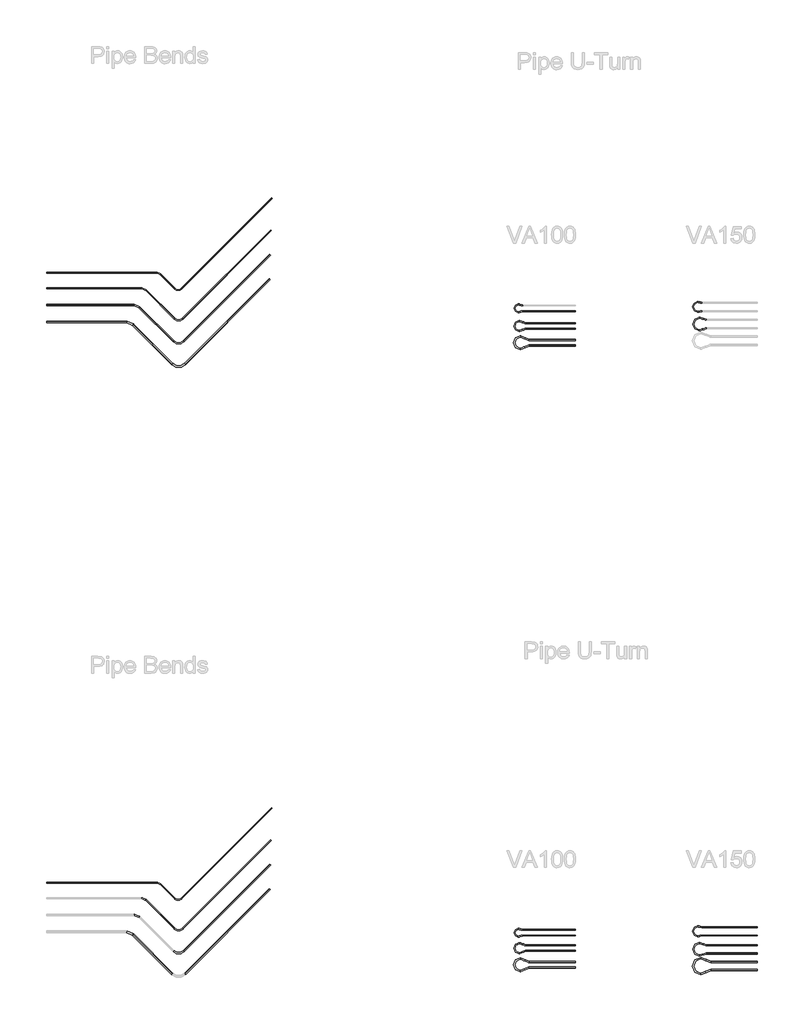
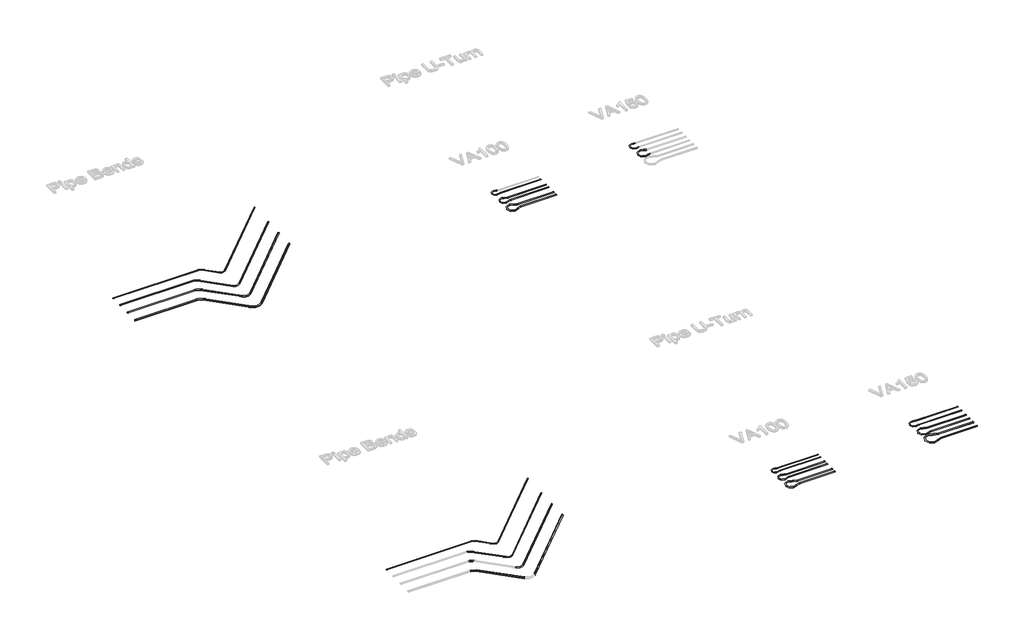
# One storey, part 5 of 26: 37 pipe segments, 26 pipe fittings.
"""IFC4 building model written with IfcOpenShell, lengths in millimetres."""

from ifc_helpers import new_model, si_unit, point, frame, frame_2d, origin, place, context, project, spatial, circle_curve, trimmed, segment, composite_curve, outline, extrude, transform, mapped, element, save
from components import pipe_bend_eb0728c1, pipe_bend_d9dde6bf, pipe_bend_f4e2ce4f, pipe_bend_7dc21ba6, pipe_bend_fe3f6248, pipe_bend_82ffcff3, pipe_bend_90816637, pipe_bend_7fa1795d, ufh_curved_u_turn_a82c40bc, ufh_curved_u_turn_aebeca01, ufh_curved_u_turn_f1e66ce9, ufh_curved_u_turn_2191235d, ufh_curved_u_turn_f083e44c, ufh_curved_u_turn_8fc7172f

model = new_model("IFC4")

# Units and contexts
model_context = context("Model", 3, world=origin())
ifc_project = project(units=[si_unit("LENGTHUNIT", "METRE", prefix="MILLI")], contexts=[model_context])

# Site, building, storey
site = spatial("IfcSite", under=ifc_project)
building = spatial("IfcBuilding", under=site)
storey = spatial("IfcBuildingStorey", under=building, Name="Superpipe UFH", Elevation=0.0)

# Pipe fittings
placement = place(None, origin())
pipe_bend_shape = pipe_bend_eb0728c1(model_context)
element("IfcPipeFitting", 1, ObjectType="Pipe Bend : Superpipe 2+ Pipe bend", at=placement, inside=storey, context=model_context, shape_type="MappedRepresentation", body=[
    mapped(pipe_bend_shape, transform((5370.3950061, 30312.5622792, 0.0), x_axis=(0.7071067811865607, -0.7071067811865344, 0.0), y_axis=(0.7071067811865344, 0.7071067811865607, 0.0), z_axis=(0.0, 0.0, 1.0))),
])
element("IfcPipeFitting", 2, ObjectType="Pipe Bend : Superpipe Pipe bend", at=placement, inside=storey, context=model_context, shape_type="MappedRepresentation", body=[
    mapped(pipe_bend_shape, transform((5370.3950061, 19373.3536193, 0.0), x_axis=(0.7071067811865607, -0.7071067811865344, 0.0), y_axis=(0.7071067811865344, 0.7071067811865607, 0.0), z_axis=(0.0, 0.0, 1.0))),
])
pipe_bend_2_shape = pipe_bend_d9dde6bf(model_context)
element("IfcPipeFitting", 3, ObjectType="Pipe Bend : Superpipe 2+ Pipe bend", at=placement, inside=storey, context=model_context, shape_type="MappedRepresentation", body=[
    mapped(pipe_bend_2_shape, transform((4637.7441458, 30079.4193827, 0.0), x_axis=(-0.7071067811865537, 0.7071067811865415, 0.0), y_axis=(-0.7071067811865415, -0.7071067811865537, 0.0), z_axis=(0.0, 0.0, 1.0))),
])
pipe_bend_3_shape = pipe_bend_f4e2ce4f(model_context)
element("IfcPipeFitting", 4, ObjectType="Pipe Bend : Superpipe 2+ Pipe bend", at=placement, inside=storey, context=model_context, shape_type="MappedRepresentation", body=[
    mapped(pipe_bend_3_shape, transform((5380.3236859, 29336.8398427, 0.0), x_axis=(0.7071067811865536, -0.7071067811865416, 0.0), y_axis=(0.7071067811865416, 0.7071067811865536, 0.0), z_axis=(0.0, 0.0, 1.0))),
])
pipe_bend_4_shape = pipe_bend_7dc21ba6(model_context)
element("IfcPipeFitting", 5, ObjectType="Pipe Bend : Superpipe 2+ Pipe bend", at=placement, inside=storey, context=model_context, shape_type="MappedRepresentation", body=[
    mapped(pipe_bend_4_shape, transform((4511.491852, 29774.6193827, 0.0), x_axis=(-0.7071067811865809, 0.7071067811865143, 0.0), y_axis=(-0.7071067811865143, -0.7071067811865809, 0.0), z_axis=(0.0, 0.0, 1.0))),
])
pipe_bend_5_shape = pipe_bend_fe3f6248(model_context)
element("IfcPipeFitting", 6, ObjectType="Pipe Bend : Superpipe 2+ Pipe bend", at=placement, inside=storey, context=model_context, shape_type="MappedRepresentation", body=[
    mapped(pipe_bend_5_shape, transform((5380.1822645, 28905.9289702, 0.0), x_axis=(0.7071067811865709, -0.7071067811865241, 0.0), y_axis=(0.7071067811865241, 0.7071067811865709, 0.0), z_axis=(0.0, 0.0, 1.0))),
])
pipe_bend_6_shape = pipe_bend_82ffcff3(model_context)
element("IfcPipeFitting", 7, ObjectType="Pipe Bend : Superpipe 2+ Pipe bend", at=placement, inside=storey, context=model_context, shape_type="MappedRepresentation", body=[
    mapped(pipe_bend_6_shape, transform((5027.1084475, 30655.8488378, 0.0), x_axis=(-0.7071067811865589, 0.7071067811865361, 0.0), y_axis=(-0.7071067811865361, -0.7071067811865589, 0.0), z_axis=(0.0, 0.0, 1.0))),
])
pipe_bend_7_shape = pipe_bend_90816637(model_context)
element("IfcPipeFitting", 8, ObjectType="Pipe Bend : Superpipe 2+ Pipe bend", at=placement, inside=storey, context=model_context, shape_type="MappedRepresentation", body=[
    mapped(pipe_bend_7_shape, transform((4762.0082146, 30379.4193827, 0.0), x_axis=(-0.7071067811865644, 0.7071067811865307, 0.0), y_axis=(-0.7071067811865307, -0.7071067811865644, 0.0), z_axis=(0.0, 0.0, 1.0))),
])
pipe_bend_8_shape = pipe_bend_7fa1795d(model_context)
element("IfcPipeFitting", 9, ObjectType="Pipe Bend : Superpipe 2+ Pipe bend", at=placement, inside=storey, context=model_context, shape_type="MappedRepresentation", body=[
    mapped(pipe_bend_8_shape, transform((5380.3236859, 29761.1039114, 0.0), x_axis=(0.7071067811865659, -0.7071067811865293, 0.0), y_axis=(0.7071067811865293, 0.7071067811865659, 0.0), z_axis=(0.0, 0.0, 1.0))),
])
element("IfcPipeFitting", 10, ObjectType="Pipe Bend : Superpipe Pipe bend", at=placement, inside=storey, context=model_context, shape_type="MappedRepresentation", body=[
    mapped(pipe_bend_2_shape, transform((4637.7441458, 19140.2107229, 0.0), x_axis=(-0.7071067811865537, 0.7071067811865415, 0.0), y_axis=(-0.7071067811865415, -0.7071067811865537, 0.0), z_axis=(0.0, 0.0, 1.0))),
])
element("IfcPipeFitting", 11, ObjectType="Pipe Bend : Superpipe Pipe bend", at=placement, inside=storey, context=model_context, shape_type="MappedRepresentation", body=[
    mapped(pipe_bend_3_shape, transform((5380.3236859, 18397.6311828, 0.0), x_axis=(0.7071067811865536, -0.7071067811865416, 0.0), y_axis=(0.7071067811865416, 0.7071067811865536, 0.0), z_axis=(0.0, 0.0, 1.0))),
])
element("IfcPipeFitting", 12, ObjectType="Pipe Bend : Superpipe Pipe bend", at=placement, inside=storey, context=model_context, shape_type="MappedRepresentation", body=[
    mapped(pipe_bend_4_shape, transform((4511.491852, 18835.4107229, 0.0), x_axis=(-0.7071067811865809, 0.7071067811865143, 0.0), y_axis=(-0.7071067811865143, -0.7071067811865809, 0.0), z_axis=(0.0, 0.0, 1.0))),
])
element("IfcPipeFitting", 13, ObjectType="Pipe Bend : Superpipe Pipe bend", at=placement, inside=storey, context=model_context, shape_type="MappedRepresentation", body=[
    mapped(pipe_bend_6_shape, transform((5027.1084475, 19716.640178, 0.0), x_axis=(-0.7071067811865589, 0.7071067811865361, 0.0), y_axis=(-0.7071067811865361, -0.7071067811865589, 0.0), z_axis=(0.0, 0.0, 1.0))),
])
element("IfcPipeFitting", 14, ObjectType="Pipe Bend : Superpipe Pipe bend", at=placement, inside=storey, context=model_context, shape_type="MappedRepresentation", body=[
    mapped(pipe_bend_7_shape, transform((4762.0082146, 19440.2107229, 0.0), x_axis=(-0.7071067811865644, 0.7071067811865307, 0.0), y_axis=(-0.7071067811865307, -0.7071067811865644, 0.0), z_axis=(0.0, 0.0, 1.0))),
])
element("IfcPipeFitting", 15, ObjectType="Pipe Bend : Superpipe Pipe bend", at=placement, inside=storey, context=model_context, shape_type="MappedRepresentation", body=[
    mapped(pipe_bend_8_shape, transform((5380.3236859, 18821.8952515, 0.0), x_axis=(0.7071067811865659, -0.7071067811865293, 0.0), y_axis=(0.7071067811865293, 0.7071067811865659, 0.0), z_axis=(0.0, 0.0, 1.0))),
])
ufh_curved_u_turn_shape = ufh_curved_u_turn_a82c40bc(model_context)
element("IfcPipeFitting", 16, ObjectType="UFH - Curved U-turn : Superpipe 2+ UFH Curved U-turn  - VA150", at=placement, inside=storey, context=model_context, shape_type="MappedRepresentation", body=[
    mapped(ufh_curved_u_turn_shape, transform((14772.2598237, 29969.743814, 0.0), x_axis=(0.0, 1.0, 0.0), y_axis=(-1.0, 0.0, 0.0), z_axis=(0.0, 0.0, 1.0))),
])
ufh_curved_u_turn_2_shape = ufh_curved_u_turn_aebeca01(model_context)
element("IfcPipeFitting", 17, ObjectType="UFH - Curved U-turn : Superpipe 2+ UFH Curved U-turn  - VA100", at=placement, inside=storey, context=model_context, shape_type="MappedRepresentation", body=[
    mapped(ufh_curved_u_turn_2_shape, transform((11607.81696, 29652.5105822, 0.0), x_axis=(0.0, 1.0, 0.0), y_axis=(-1.0, 0.0, 0.0), z_axis=(0.0, 0.0, 1.0))),
])
element("IfcPipeFitting", 18, ObjectType="UFH - Curved U-turn : Superpipe UFH Curved U-turn  - VA100", at=placement, inside=storey, context=model_context, shape_type="MappedRepresentation", body=[
    mapped(ufh_curved_u_turn_2_shape, transform((11607.81696, 18493.0164319, 0.0), x_axis=(0.0, 1.0, 0.0), y_axis=(-1.0, 0.0, 0.0), z_axis=(0.0, 0.0, 1.0))),
])
element("IfcPipeFitting", 19, ObjectType="UFH - Curved U-turn : Superpipe UFH Curved U-turn  - VA150", at=placement, inside=storey, context=model_context, shape_type="MappedRepresentation", body=[
    mapped(ufh_curved_u_turn_shape, transform((14772.2598237, 18769.743814, 0.0), x_axis=(0.0, 1.0, 0.0), y_axis=(-1.0, 0.0, 0.0), z_axis=(0.0, 0.0, 1.0))),
])
ufh_curved_u_turn_3_shape = ufh_curved_u_turn_f1e66ce9(model_context)
element("IfcPipeFitting", 20, ObjectType="UFH - Curved U-turn : Superpipe 2+ UFH Curved U-turn  - VA100", at=placement, inside=storey, context=model_context, shape_type="MappedRepresentation", body=[
    mapped(ufh_curved_u_turn_3_shape, transform((11556.1170006, 29969.743814, 0.0), x_axis=(0.0, 1.0, 0.0), y_axis=(-1.0, 0.0, 0.0), z_axis=(0.0, 0.0, 1.0))),
])
ufh_curved_u_turn_4_shape = ufh_curved_u_turn_2191235d(model_context)
element("IfcPipeFitting", 21, ObjectType="UFH - Curved U-turn : Superpipe 2+ UFH Curved U-turn  - VA150", at=placement, inside=storey, context=model_context, shape_type="MappedRepresentation", body=[
    mapped(ufh_curved_u_turn_4_shape, transform((14852.7350554, 29661.919181, 0.0), x_axis=(0.0, 1.0, 0.0), y_axis=(-1.0, 0.0, 0.0), z_axis=(0.0, 0.0, 1.0))),
])
ufh_curved_u_turn_5_shape = ufh_curved_u_turn_f083e44c(model_context)
element("IfcPipeFitting", 22, ObjectType="UFH - Curved U-turn : Superpipe 2+ UFH Curved U-turn  - VA100", at=placement, inside=storey, context=model_context, shape_type="MappedRepresentation", body=[
    mapped(ufh_curved_u_turn_5_shape, transform((11670.6980373, 29352.7649855, 0.0), x_axis=(0.0, 1.0, 0.0), y_axis=(-1.0, 0.0, 0.0), z_axis=(0.0, 0.0, 1.0))),
])
element("IfcPipeFitting", 23, ObjectType="UFH - Curved U-turn : Superpipe UFH Curved U-turn  - VA100", at=placement, inside=storey, context=model_context, shape_type="MappedRepresentation", body=[
    mapped(ufh_curved_u_turn_3_shape, transform((11556.1170006, 18769.743814, 0.0), x_axis=(0.0, 1.0, 0.0), y_axis=(-1.0, 0.0, 0.0), z_axis=(0.0, 0.0, 1.0))),
])
element("IfcPipeFitting", 24, ObjectType="UFH - Curved U-turn : Superpipe UFH Curved U-turn  - VA150", at=placement, inside=storey, context=model_context, shape_type="MappedRepresentation", body=[
    mapped(ufh_curved_u_turn_4_shape, transform((14852.7350554, 18447.0645056, 0.0), x_axis=(0.0, 1.0, 0.0), y_axis=(-1.0, 0.0, 0.0), z_axis=(0.0, 0.0, 1.0))),
])
element("IfcPipeFitting", 25, ObjectType="UFH - Curved U-turn : Superpipe UFH Curved U-turn  - VA100", at=placement, inside=storey, context=model_context, shape_type="MappedRepresentation", body=[
    mapped(ufh_curved_u_turn_5_shape, transform((11670.6980373, 18193.2708352, 0.0), x_axis=(0.0, 1.0, 0.0), y_axis=(-1.0, 0.0, 0.0), z_axis=(0.0, 0.0, 1.0))),
])
ufh_curved_u_turn_6_shape = ufh_curved_u_turn_8fc7172f(model_context)
element("IfcPipeFitting", 26, ObjectType="UFH - Curved U-turn : Superpipe UFH Curved U-turn  - VA150", at=placement, inside=storey, context=model_context, shape_type="MappedRepresentation", body=[
    mapped(ufh_curved_u_turn_6_shape, transform((14932.01092, 18147.3189089, 0.0), x_axis=(0.0, 1.0, 0.0), y_axis=(-1.0, 0.0, 0.0), z_axis=(0.0, 0.0, 1.0))),
])

# Pipe segments
element("IfcPipeSegment", 27, ObjectType="Superpipe 2+ coil", at=placement, inside=storey, context=model_context, shape_type="SweptSolid", body=[
    extrude(outline(composite_curve([segment(trimmed(circle_curve(frame_2d((30079.4193827, 0.0)), 12.5), [point((30066.9193827, 0.0))], [point((30079.4193827, 12.5))], False, "CARTESIAN"), True, "CONTINUOUS"), segment(trimmed(circle_curve(frame_2d((30079.4193827, 0.0)), 12.5), [point((30079.4193827, 12.5))], [point((30091.9193827, 0.0))], False, "CARTESIAN"), True, "CONTINUOUS"), segment(trimmed(circle_curve(frame_2d((30079.4193827, 0.0)), 12.5), [point((30091.9193827, 0.0))], [point((30079.4193827, -12.5))], False, "CARTESIAN"), True, "CONTINUOUS"), segment(trimmed(circle_curve(frame_2d((30079.4193827, 0.0)), 12.5), [point((30079.4193827, -12.5))], [point((30066.9193827, 0.0))], False, "CARTESIAN"), True, "CONTINUOUS")], self_intersect=False)), frame((3008.7508106, 0.0, 0.0), z_axis=(1.0, 0.0, 0.0), x_axis=(0.0, 1.0, 0.0)), (0.0, 0.0, 1.0), 1575.2166399),
])
element("IfcPipeSegment", 28, ObjectType="Superpipe 2+ coil", at=placement, inside=storey, context=model_context, shape_type="SweptSolid", body=[
    extrude(outline(composite_curve([segment(trimmed(circle_curve(frame_2d((0.0, -12.5)), 12.5), [point((-12.5, -12.5))], [point((0.0, 0.0))], False, "CARTESIAN"), True, "CONTINUOUS"), segment(trimmed(circle_curve(frame_2d((0.0, -12.5)), 12.5), [point((0.0, 0.0))], [point((12.5, -12.5))], False, "CARTESIAN"), True, "CONTINUOUS"), segment(trimmed(circle_curve(frame_2d((0.0, -12.5)), 12.5), [point((12.5, -12.5))], [point((0.0, -25.0))], False, "CARTESIAN"), True, "CONTINUOUS"), segment(trimmed(circle_curve(frame_2d((0.0, -12.5)), 12.5), [point((0.0, -25.0))], [point((-12.5, -12.5))], False, "CARTESIAN"), True, "CONTINUOUS")], self_intersect=False)), frame((5290.5211247, 29426.6424039, -12.5), z_axis=(-0.7071067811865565, 0.7071067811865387, 0.0), x_axis=(0.7071067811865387, 0.7071067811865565, 0.0)), (0.0, 0.0, 1.0), 869.3893614),
])
element("IfcPipeSegment", 29, ObjectType="Superpipe 2+ coil", at=placement, inside=storey, context=model_context, shape_type="SweptSolid", body=[
    extrude(outline(composite_curve([segment(trimmed(circle_curve(frame_2d((0.0, 12.5)), 12.5), [point((12.5, 12.5))], [point((0.0, 0.0))], False, "CARTESIAN"), True, "CONTINUOUS"), segment(trimmed(circle_curve(frame_2d((0.0, 12.5)), 12.5), [point((0.0, 0.0))], [point((-12.5, 12.5))], False, "CARTESIAN"), True, "CONTINUOUS"), segment(trimmed(circle_curve(frame_2d((0.0, 12.5)), 12.5), [point((-12.5, 12.5))], [point((0.0, 25.0))], False, "CARTESIAN"), True, "CONTINUOUS"), segment(trimmed(circle_curve(frame_2d((0.0, 12.5)), 12.5), [point((0.0, 25.0))], [point((12.5, 12.5))], False, "CARTESIAN"), True, "CONTINUOUS")], self_intersect=False)), frame((5470.1262471, 29426.6424039, 12.5), z_axis=(0.7071067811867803, 0.7071067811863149, 0.0), x_axis=(0.7071067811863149, -0.7071067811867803, 0.0)), (0.0, 0.0, 1.0), 2195.2640687),
])
element("IfcPipeSegment", 30, ObjectType="Superpipe 2+ coil", at=placement, inside=storey, context=model_context, shape_type="SweptSolid", body=[
    extrude(outline(composite_curve([segment(trimmed(circle_curve(frame_2d((29774.6193827, 0.0)), 16.0), [point((29758.6193827, 0.0))], [point((29774.6193827, 16.0))], False, "CARTESIAN"), True, "CONTINUOUS"), segment(trimmed(circle_curve(frame_2d((29774.6193827, 0.0)), 16.0), [point((29774.6193827, 16.0))], [point((29790.6193827, 0.0))], False, "CARTESIAN"), True, "CONTINUOUS"), segment(trimmed(circle_curve(frame_2d((29774.6193827, 0.0)), 16.0), [point((29790.6193827, 0.0))], [point((29774.6193827, -16.0))], False, "CARTESIAN"), True, "CONTINUOUS"), segment(trimmed(circle_curve(frame_2d((29774.6193827, 0.0)), 16.0), [point((29774.6193827, -16.0))], [point((29758.6193827, 0.0))], False, "CARTESIAN"), True, "CONTINUOUS")], self_intersect=False)), frame((3008.7508106, 0.0, 0.0), z_axis=(1.0, 0.0, 0.0), x_axis=(0.0, 1.0, 0.0)), (0.0, 0.0, 1.0), 1434.4668714),
])
element("IfcPipeSegment", 31, ObjectType="Superpipe 2+ coil", at=placement, inside=storey, context=model_context, shape_type="SweptSolid", body=[
    extrude(outline(composite_curve([segment(trimmed(circle_curve(frame_2d((0.0, -16.0)), 16.0), [point((-16.0, -16.0))], [point((0.0, 0.0))], False, "CARTESIAN"), True, "CONTINUOUS"), segment(trimmed(circle_curve(frame_2d((0.0, -16.0)), 16.0), [point((0.0, 0.0))], [point((16.0, -16.0))], False, "CARTESIAN"), True, "CONTINUOUS"), segment(trimmed(circle_curve(frame_2d((0.0, -16.0)), 16.0), [point((16.0, -16.0))], [point((0.0, -32.0))], False, "CARTESIAN"), True, "CONTINUOUS"), segment(trimmed(circle_curve(frame_2d((0.0, -16.0)), 16.0), [point((0.0, -32.0))], [point((-16.0, -16.0))], False, "CARTESIAN"), True, "CONTINUOUS")], self_intersect=False)), frame((5265.630966, 29020.4802688, -16.0), z_axis=(-0.7071067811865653, 0.7071067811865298, 0.0), x_axis=(0.7071067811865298, 0.7071067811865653, 0.0)), (0.0, 0.0, 1.0), 998.2395929),
])
element("IfcPipeSegment", 32, ObjectType="Superpipe 2+ coil", at=placement, inside=storey, context=model_context, shape_type="SweptSolid", body=[
    extrude(outline(composite_curve([segment(trimmed(circle_curve(frame_2d((0.0, 16.0)), 16.0), [point((16.0, 16.0))], [point((0.0, 0.0))], False, "CARTESIAN"), True, "CONTINUOUS"), segment(trimmed(circle_curve(frame_2d((0.0, 16.0)), 16.0), [point((0.0, 0.0))], [point((-16.0, 16.0))], False, "CARTESIAN"), True, "CONTINUOUS"), segment(trimmed(circle_curve(frame_2d((0.0, 16.0)), 16.0), [point((-16.0, 16.0))], [point((0.0, 32.0))], False, "CARTESIAN"), True, "CONTINUOUS"), segment(trimmed(circle_curve(frame_2d((0.0, 16.0)), 16.0), [point((0.0, 32.0))], [point((16.0, 16.0))], False, "CARTESIAN"), True, "CONTINUOUS")], self_intersect=False)), frame((5494.7335631, 29020.4802688, 16.0), z_axis=(0.7071067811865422, 0.7071067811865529, 0.0), x_axis=(0.7071067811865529, -0.7071067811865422, 0.0)), (0.0, 0.0, 1.0), 2149.2640687),
])
element("IfcPipeSegment", 33, ObjectType="Superpipe 2+ coil", at=placement, inside=storey, context=model_context, shape_type="SweptSolid", body=[
    extrude(outline(composite_curve([segment(trimmed(circle_curve(frame_2d((30655.8488378, 0.0)), 8.0), [point((30647.8488378, 0.0))], [point((30655.8488378, 8.0))], False, "CARTESIAN"), True, "CONTINUOUS"), segment(trimmed(circle_curve(frame_2d((30655.8488378, 0.0)), 8.0), [point((30655.8488378, 8.0))], [point((30663.8488378, 0.0))], False, "CARTESIAN"), True, "CONTINUOUS"), segment(trimmed(circle_curve(frame_2d((30655.8488378, 0.0)), 8.0), [point((30663.8488378, 0.0))], [point((30655.8488378, -8.0))], False, "CARTESIAN"), True, "CONTINUOUS"), segment(trimmed(circle_curve(frame_2d((30655.8488378, 0.0)), 8.0), [point((30655.8488378, -8.0))], [point((30647.8488378, 0.0))], False, "CARTESIAN"), True, "CONTINUOUS")], self_intersect=False)), frame((3012.3213556, 0.0, 0.0), z_axis=(1.0, 0.0, 0.0), x_axis=(0.0, 1.0, 0.0)), (0.0, 0.0, 1.0), 1979.650007),
])
element("IfcPipeSegment", 34, ObjectType="Superpipe 2+ coil", at=placement, inside=storey, context=model_context, shape_type="SweptSolid", body=[
    extrude(outline(composite_curve([segment(trimmed(circle_curve(frame_2d((0.0, -8.0)), 8.0), [point((-8.0000001, -8.0))], [point((0.0, 0.0))], False, "CARTESIAN"), True, "CONTINUOUS"), segment(trimmed(circle_curve(frame_2d((0.0, -8.0)), 8.0), [point((0.0, 0.0))], [point((7.9999999, -8.0))], False, "CARTESIAN"), True, "CONTINUOUS"), segment(trimmed(circle_curve(frame_2d((0.0, -8.0)), 8.0), [point((7.9999999, -8.0))], [point((0.0, -16.0))], False, "CARTESIAN"), True, "CONTINUOUS"), segment(trimmed(circle_curve(frame_2d((0.0, -8.0)), 8.0), [point((0.0, -16.0))], [point((-8.0000001, -8.0))], False, "CARTESIAN"), True, "CONTINUOUS")], self_intersect=False)), frame((5312.4122501, 30370.5450353, -8.0), z_axis=(-0.707106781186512, 0.7071067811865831, 0.0), x_axis=(0.7071067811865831, 0.707106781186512, 0.0)), (0.0, 0.0, 1.0), 368.343422),
])
element("IfcPipeSegment", 35, ObjectType="Superpipe 2+ coil", at=placement, inside=storey, context=model_context, shape_type="SweptSolid", body=[
    extrude(outline(composite_curve([segment(trimmed(circle_curve(frame_2d((0.0, 8.0)), 8.0), [point((8.0, 8.0))], [point((0.0, 0.0))], False, "CARTESIAN"), True, "CONTINUOUS"), segment(trimmed(circle_curve(frame_2d((0.0, 8.0)), 8.0), [point((0.0, 0.0))], [point((-8.0, 8.0))], False, "CARTESIAN"), True, "CONTINUOUS"), segment(trimmed(circle_curve(frame_2d((0.0, 8.0)), 8.0), [point((-8.0, 8.0))], [point((0.0, 16.0))], False, "CARTESIAN"), True, "CONTINUOUS"), segment(trimmed(circle_curve(frame_2d((0.0, 8.0)), 8.0), [point((0.0, 16.0))], [point((8.0, 8.0))], False, "CARTESIAN"), True, "CONTINUOUS")], self_intersect=False)), frame((5428.3777622, 30370.5450353, 8.0), z_axis=(0.7071067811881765, 0.7071067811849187, 0.0), x_axis=(0.7071067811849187, -0.7071067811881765, 0.0)), (0.0, 0.0, 1.0), 2295.3548553),
])
element("IfcPipeSegment", 36, ObjectType="Superpipe 2+ coil", at=placement, inside=storey, context=model_context, shape_type="SweptSolid", body=[
    extrude(outline(composite_curve([segment(trimmed(circle_curve(frame_2d((30379.4193827, 0.0)), 10.0), [point((30389.4193827, 0.0))], [point((30379.4193827, -10.0))], False, "CARTESIAN"), True, "CONTINUOUS"), segment(trimmed(circle_curve(frame_2d((30379.4193827, 0.0)), 10.0), [point((30379.4193827, -10.0))], [point((30369.4193827, 0.0))], False, "CARTESIAN"), True, "CONTINUOUS"), segment(trimmed(circle_curve(frame_2d((30379.4193827, 0.0)), 10.0), [point((30369.4193827, 0.0))], [point((30379.4193827, 10.0))], False, "CARTESIAN"), True, "CONTINUOUS"), segment(trimmed(circle_curve(frame_2d((30379.4193827, 0.0)), 10.0), [point((30379.4193827, 10.0))], [point((30389.4193827, 0.0))], False, "CARTESIAN"), True, "CONTINUOUS")], self_intersect=False)), frame((3008.7508106, 0.0, 0.0), z_axis=(1.0, 0.0, 0.0), x_axis=(0.0, 1.0, 0.0)), (0.0, 0.0, 1.0), 1709.8360477),
])
element("IfcPipeSegment", 37, ObjectType="Superpipe 2+ coil", at=placement, inside=storey, context=model_context, shape_type="SweptSolid", body=[
    extrude(outline(composite_curve([segment(trimmed(circle_curve(frame_2d((0.0, 10.0)), 10.0), [point((10.0, 10.0))], [point((0.0, 0.0))], False, "CARTESIAN"), True, "CONTINUOUS"), segment(trimmed(circle_curve(frame_2d((0.0, 10.0)), 10.0), [point((0.0, 0.0))], [point((-10.0, 10.0))], False, "CARTESIAN"), True, "CONTINUOUS"), segment(trimmed(circle_curve(frame_2d((0.0, 10.0)), 10.0), [point((-10.0, 10.0))], [point((0.0, 20.0))], False, "CARTESIAN"), True, "CONTINUOUS"), segment(trimmed(circle_curve(frame_2d((0.0, 10.0)), 10.0), [point((0.0, 20.0))], [point((10.0, 10.0))], False, "CARTESIAN"), True, "CONTINUOUS")], self_intersect=False)), frame((5308.1987942, 29833.2288031, 10.0), z_axis=(-0.7071067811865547, 0.7071067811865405, 0.0), x_axis=(0.7071067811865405, 0.7071067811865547, 0.0)), (0.0, 0.0, 1.0), 729.0087692),
])
element("IfcPipeSegment", 38, ObjectType="Superpipe 2+ coil", at=placement, inside=storey, context=model_context, shape_type="SweptSolid", body=[
    extrude(outline(composite_curve([segment(trimmed(circle_curve(frame_2d((0.0, -10.0)), 10.0), [point((-10.0, -10.0))], [point((0.0, 0.0))], False, "CARTESIAN"), True, "CONTINUOUS"), segment(trimmed(circle_curve(frame_2d((0.0, -10.0)), 10.0), [point((0.0, 0.0))], [point((10.0, -10.0))], False, "CARTESIAN"), True, "CONTINUOUS"), segment(trimmed(circle_curve(frame_2d((0.0, -10.0)), 10.0), [point((10.0, -10.0))], [point((0.0, -20.0))], False, "CARTESIAN"), True, "CONTINUOUS"), segment(trimmed(circle_curve(frame_2d((0.0, -10.0)), 10.0), [point((0.0, -20.0))], [point((-10.0, -10.0))], False, "CARTESIAN"), True, "CONTINUOUS")], self_intersect=False)), frame((5452.4485776, 29833.2288031, -10.0), z_axis=(0.7071067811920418, 0.7071067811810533, 0.0), x_axis=(0.7071067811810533, -0.7071067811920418, 0.0)), (0.0, 0.0, 1.0), 2240.2640687),
])
element("IfcPipeSegment", 39, ObjectType="Superpipe - coil", at=placement, inside=storey, context=model_context, shape_type="SweptSolid", body=[
    extrude(outline(composite_curve([segment(trimmed(circle_curve(frame_2d((0.0, 12.5)), 12.5), [point((12.5, 12.5))], [point((0.0, 0.0))], False, "CARTESIAN"), True, "CONTINUOUS"), segment(trimmed(circle_curve(frame_2d((0.0, 12.5)), 12.5), [point((0.0, 0.0))], [point((-12.5, 12.5))], False, "CARTESIAN"), True, "CONTINUOUS"), segment(trimmed(circle_curve(frame_2d((0.0, 12.5)), 12.5), [point((-12.5, 12.5))], [point((0.0, 25.0))], False, "CARTESIAN"), True, "CONTINUOUS"), segment(trimmed(circle_curve(frame_2d((0.0, 12.5)), 12.5), [point((0.0, 25.0))], [point((12.5, 12.5))], False, "CARTESIAN"), True, "CONTINUOUS")], self_intersect=False)), frame((5470.1262471, 18487.433744, 12.5), z_axis=(0.7071067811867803, 0.7071067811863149, 0.0), x_axis=(0.7071067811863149, -0.7071067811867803, 0.0)), (0.0, 0.0, 1.0), 2195.2640687),
])
element("IfcPipeSegment", 40, ObjectType="Superpipe - coil", at=placement, inside=storey, context=model_context, shape_type="SweptSolid", body=[
    extrude(outline(composite_curve([segment(trimmed(circle_curve(frame_2d((0.0, -16.0)), 16.0), [point((-16.0, -16.0))], [point((0.0, 0.0))], False, "CARTESIAN"), True, "CONTINUOUS"), segment(trimmed(circle_curve(frame_2d((0.0, -16.0)), 16.0), [point((0.0, 0.0))], [point((16.0, -16.0))], False, "CARTESIAN"), True, "CONTINUOUS"), segment(trimmed(circle_curve(frame_2d((0.0, -16.0)), 16.0), [point((16.0, -16.0))], [point((0.0, -32.0))], False, "CARTESIAN"), True, "CONTINUOUS"), segment(trimmed(circle_curve(frame_2d((0.0, -16.0)), 16.0), [point((0.0, -32.0))], [point((-16.0, -16.0))], False, "CARTESIAN"), True, "CONTINUOUS")], self_intersect=False)), frame((5265.630966, 18081.2716089, -16.0), z_axis=(-0.7071067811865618, 0.7071067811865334, 0.0), x_axis=(0.7071067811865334, 0.7071067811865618, 0.0)), (0.0, 0.0, 1.0), 998.2395929),
])
element("IfcPipeSegment", 41, ObjectType="Superpipe - coil", at=placement, inside=storey, context=model_context, shape_type="SweptSolid", body=[
    extrude(outline(composite_curve([segment(trimmed(circle_curve(frame_2d((0.0, 16.0)), 16.0), [point((16.0, 16.0))], [point((0.0, 0.0))], False, "CARTESIAN"), True, "CONTINUOUS"), segment(trimmed(circle_curve(frame_2d((0.0, 16.0)), 16.0), [point((0.0, 0.0))], [point((-16.0, 16.0))], False, "CARTESIAN"), True, "CONTINUOUS"), segment(trimmed(circle_curve(frame_2d((0.0, 16.0)), 16.0), [point((-16.0, 16.0))], [point((0.0, 32.0))], False, "CARTESIAN"), True, "CONTINUOUS"), segment(trimmed(circle_curve(frame_2d((0.0, 16.0)), 16.0), [point((0.0, 32.0))], [point((16.0, 16.0))], False, "CARTESIAN"), True, "CONTINUOUS")], self_intersect=False)), frame((5494.7335631, 18081.2716089, 16.0), z_axis=(0.7071067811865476, 0.7071067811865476, 0.0), x_axis=(0.7071067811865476, -0.7071067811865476, 0.0)), (0.0, 0.0, 1.0), 2149.2640687),
])
element("IfcPipeSegment", 42, ObjectType="Superpipe - coil", at=placement, inside=storey, context=model_context, shape_type="SweptSolid", body=[
    extrude(outline(composite_curve([segment(trimmed(circle_curve(frame_2d((19716.640178, 0.0)), 8.0), [point((19708.640178, 0.0))], [point((19716.640178, 8.0))], False, "CARTESIAN"), True, "CONTINUOUS"), segment(trimmed(circle_curve(frame_2d((19716.640178, 0.0)), 8.0), [point((19716.640178, 8.0))], [point((19724.640178, 0.0))], False, "CARTESIAN"), True, "CONTINUOUS"), segment(trimmed(circle_curve(frame_2d((19716.640178, 0.0)), 8.0), [point((19724.640178, 0.0))], [point((19716.640178, -8.0))], False, "CARTESIAN"), True, "CONTINUOUS"), segment(trimmed(circle_curve(frame_2d((19716.640178, 0.0)), 8.0), [point((19716.640178, -8.0))], [point((19708.640178, 0.0))], False, "CARTESIAN"), True, "CONTINUOUS")], self_intersect=False)), frame((3012.3213556, 0.0, 0.0), z_axis=(1.0, 0.0, 0.0), x_axis=(0.0, 1.0, 0.0)), (0.0, 0.0, 1.0), 1979.650007),
])
element("IfcPipeSegment", 43, ObjectType="Superpipe - coil", at=placement, inside=storey, context=model_context, shape_type="SweptSolid", body=[
    extrude(outline(composite_curve([segment(trimmed(circle_curve(frame_2d((0.0, -8.0)), 8.0), [point((-8.0, -8.0))], [point((0.0, 0.0))], False, "CARTESIAN"), True, "CONTINUOUS"), segment(trimmed(circle_curve(frame_2d((0.0, -8.0)), 8.0), [point((0.0, 0.0))], [point((8.0, -8.0))], False, "CARTESIAN"), True, "CONTINUOUS"), segment(trimmed(circle_curve(frame_2d((0.0, -8.0)), 8.0), [point((8.0, -8.0))], [point((0.0, -16.0))], False, "CARTESIAN"), True, "CONTINUOUS"), segment(trimmed(circle_curve(frame_2d((0.0, -8.0)), 8.0), [point((0.0, -16.0))], [point((-8.0, -8.0))], False, "CARTESIAN"), True, "CONTINUOUS")], self_intersect=False)), frame((5312.4122501, 19431.3363754, -8.0), z_axis=(-0.707106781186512, 0.7071067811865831, 0.0), x_axis=(0.7071067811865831, 0.707106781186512, 0.0)), (0.0, 0.0, 1.0), 368.343422),
])
element("IfcPipeSegment", 44, ObjectType="Superpipe - coil", at=placement, inside=storey, context=model_context, shape_type="SweptSolid", body=[
    extrude(outline(composite_curve([segment(trimmed(circle_curve(frame_2d((0.0, 8.0)), 8.0), [point((7.9999999, 8.0))], [point((0.0, 0.0))], False, "CARTESIAN"), True, "CONTINUOUS"), segment(trimmed(circle_curve(frame_2d((0.0, 8.0)), 8.0), [point((0.0, 0.0))], [point((-8.0000001, 8.0))], False, "CARTESIAN"), True, "CONTINUOUS"), segment(trimmed(circle_curve(frame_2d((0.0, 8.0)), 8.0), [point((-8.0000001, 8.0))], [point((0.0, 16.0))], False, "CARTESIAN"), True, "CONTINUOUS"), segment(trimmed(circle_curve(frame_2d((0.0, 8.0)), 8.0), [point((0.0, 16.0))], [point((7.9999999, 8.0))], False, "CARTESIAN"), True, "CONTINUOUS")], self_intersect=False)), frame((5428.3777622, 19431.3363754, 8.0), z_axis=(0.70710678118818, 0.7071067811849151, 0.0), x_axis=(0.7071067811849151, -0.70710678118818, 0.0)), (0.0, 0.0, 1.0), 2295.3548553),
])
element("IfcPipeSegment", 45, ObjectType="Superpipe - coil", at=placement, inside=storey, context=model_context, shape_type="SweptSolid", body=[
    extrude(outline(composite_curve([segment(trimmed(circle_curve(frame_2d((0.0, 10.0)), 10.0), [point((10.0, 10.0))], [point((0.0, 0.0))], False, "CARTESIAN"), True, "CONTINUOUS"), segment(trimmed(circle_curve(frame_2d((0.0, 10.0)), 10.0), [point((0.0, 0.0))], [point((-10.0, 10.0))], False, "CARTESIAN"), True, "CONTINUOUS"), segment(trimmed(circle_curve(frame_2d((0.0, 10.0)), 10.0), [point((-10.0, 10.0))], [point((0.0, 20.0))], False, "CARTESIAN"), True, "CONTINUOUS"), segment(trimmed(circle_curve(frame_2d((0.0, 10.0)), 10.0), [point((0.0, 20.0))], [point((10.0, 10.0))], False, "CARTESIAN"), True, "CONTINUOUS")], self_intersect=False)), frame((5308.1987942, 18894.0201432, 10.0), z_axis=(-0.7071067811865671, 0.707106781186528, 0.0), x_axis=(0.707106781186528, 0.7071067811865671, 0.0)), (0.0, 0.0, 1.0), 729.0087692),
])
element("IfcPipeSegment", 46, ObjectType="Superpipe - coil", at=placement, inside=storey, context=model_context, shape_type="SweptSolid", body=[
    extrude(outline(composite_curve([segment(trimmed(circle_curve(frame_2d((0.0, -10.0)), 10.0), [point((-10.0, -10.0))], [point((0.0, 0.0))], False, "CARTESIAN"), True, "CONTINUOUS"), segment(trimmed(circle_curve(frame_2d((0.0, -10.0)), 10.0), [point((0.0, 0.0))], [point((10.0, -10.0))], False, "CARTESIAN"), True, "CONTINUOUS"), segment(trimmed(circle_curve(frame_2d((0.0, -10.0)), 10.0), [point((10.0, -10.0))], [point((0.0, -20.0))], False, "CARTESIAN"), True, "CONTINUOUS"), segment(trimmed(circle_curve(frame_2d((0.0, -10.0)), 10.0), [point((0.0, -20.0))], [point((-10.0, -10.0))], False, "CARTESIAN"), True, "CONTINUOUS")], self_intersect=False)), frame((5452.4485776, 18894.0201432, -10.0), z_axis=(0.7071067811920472, 0.707106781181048, 0.0), x_axis=(0.707106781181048, -0.7071067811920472, 0.0)), (0.0, 0.0, 1.0), 2240.2640687),
])
element("IfcPipeSegment", 47, ObjectType="Superpipe 2+ coil", at=placement, inside=storey, context=model_context, shape_type="SweptSolid", body=[
    extrude(outline(composite_curve([segment(trimmed(circle_curve(frame_2d((29969.743814, 0.0)), 8.0), [point((29961.743814, 0.0))], [point((29969.743814, 8.0))], False, "CARTESIAN"), True, "CONTINUOUS"), segment(trimmed(circle_curve(frame_2d((29969.743814, 0.0)), 8.0), [point((29969.743814, 8.0))], [point((29977.743814, 0.0))], False, "CARTESIAN"), True, "CONTINUOUS"), segment(trimmed(circle_curve(frame_2d((29969.743814, 0.0)), 8.0), [point((29977.743814, 0.0))], [point((29969.743814, -8.0))], False, "CARTESIAN"), True, "CONTINUOUS"), segment(trimmed(circle_curve(frame_2d((29969.743814, 0.0)), 8.0), [point((29969.743814, -8.0))], [point((29961.743814, 0.0))], False, "CARTESIAN"), True, "CONTINUOUS")], self_intersect=False)), frame((11556.1170006, 0.0, 0.0), z_axis=(1.0, 0.0, 0.0), x_axis=(0.0, 1.0, 0.0)), (0.0, 0.0, 1.0), 947.3802123),
])
element("IfcPipeSegment", 48, ObjectType="Superpipe 2+ coil", at=placement, inside=storey, context=model_context, shape_type="SweptSolid", body=[
    extrude(outline(composite_curve([segment(trimmed(circle_curve(frame_2d((29752.5105822, 0.0)), 10.0), [point((29742.5105822, 0.0))], [point((29752.5105822, 10.0))], False, "CARTESIAN"), True, "CONTINUOUS"), segment(trimmed(circle_curve(frame_2d((29752.5105822, 0.0)), 10.0), [point((29752.5105822, 10.0))], [point((29762.5105822, 0.0))], False, "CARTESIAN"), True, "CONTINUOUS"), segment(trimmed(circle_curve(frame_2d((29752.5105822, 0.0)), 10.0), [point((29762.5105822, 0.0))], [point((29752.5105822, -10.0))], False, "CARTESIAN"), True, "CONTINUOUS"), segment(trimmed(circle_curve(frame_2d((29752.5105822, 0.0)), 10.0), [point((29752.5105822, -10.0))], [point((29742.5105822, 0.0))], False, "CARTESIAN"), True, "CONTINUOUS")], self_intersect=False)), frame((11607.81696, 0.0, 0.0), z_axis=(1.0, 0.0, 0.0), x_axis=(0.0, 1.0, 0.0)), (0.0, 0.0, 1.0), 895.6802528),
])
element("IfcPipeSegment", 49, ObjectType="Superpipe 2+ coil", at=placement, inside=storey, context=model_context, shape_type="SweptSolid", body=[
    extrude(outline(composite_curve([segment(trimmed(circle_curve(frame_2d((29652.5105822, 0.0)), 10.0), [point((29642.5105822, 0.0))], [point((29652.5105822, 10.0))], False, "CARTESIAN"), True, "CONTINUOUS"), segment(trimmed(circle_curve(frame_2d((29652.5105822, 0.0)), 10.0), [point((29652.5105822, 10.0))], [point((29662.5105822, 0.0))], False, "CARTESIAN"), True, "CONTINUOUS"), segment(trimmed(circle_curve(frame_2d((29652.5105822, 0.0)), 10.0), [point((29662.5105822, 0.0))], [point((29652.5105822, -10.0))], False, "CARTESIAN"), True, "CONTINUOUS"), segment(trimmed(circle_curve(frame_2d((29652.5105822, 0.0)), 10.0), [point((29652.5105822, -10.0))], [point((29642.5105822, 0.0))], False, "CARTESIAN"), True, "CONTINUOUS")], self_intersect=False)), frame((11607.81696, 0.0, 0.0), z_axis=(1.0, 0.0, 0.0), x_axis=(0.0, 1.0, 0.0)), (0.0, 0.0, 1.0), 895.6802528),
])
element("IfcPipeSegment", 50, ObjectType="Superpipe 2+ coil", at=placement, inside=storey, context=model_context, shape_type="SweptSolid", body=[
    extrude(outline(composite_curve([segment(trimmed(circle_curve(frame_2d((29452.7649855, 0.0)), 12.5), [point((29440.2649855, 0.0))], [point((29452.7649855, 12.5))], False, "CARTESIAN"), True, "CONTINUOUS"), segment(trimmed(circle_curve(frame_2d((29452.7649855, 0.0)), 12.5), [point((29452.7649855, 12.5))], [point((29465.2649855, 0.0))], False, "CARTESIAN"), True, "CONTINUOUS"), segment(trimmed(circle_curve(frame_2d((29452.7649855, 0.0)), 12.5), [point((29465.2649855, 0.0))], [point((29452.7649855, -12.5))], False, "CARTESIAN"), True, "CONTINUOUS"), segment(trimmed(circle_curve(frame_2d((29452.7649855, 0.0)), 12.5), [point((29452.7649855, -12.5))], [point((29440.2649855, 0.0))], False, "CARTESIAN"), True, "CONTINUOUS")], self_intersect=False)), frame((11670.6980373, 0.0, 0.0), z_axis=(1.0, 0.0, 0.0), x_axis=(0.0, 1.0, 0.0)), (0.0, 0.0, 1.0), 832.7991756),
])
element("IfcPipeSegment", 51, ObjectType="Superpipe 2+ coil", at=placement, inside=storey, context=model_context, shape_type="SweptSolid", body=[
    extrude(outline(composite_curve([segment(trimmed(circle_curve(frame_2d((29352.7649855, 0.0)), 12.5), [point((29340.2649855, 0.0))], [point((29352.7649855, 12.5))], False, "CARTESIAN"), True, "CONTINUOUS"), segment(trimmed(circle_curve(frame_2d((29352.7649855, 0.0)), 12.5), [point((29352.7649855, 12.5))], [point((29365.2649855, 0.0))], False, "CARTESIAN"), True, "CONTINUOUS"), segment(trimmed(circle_curve(frame_2d((29352.7649855, 0.0)), 12.5), [point((29365.2649855, 0.0))], [point((29352.7649855, -12.5))], False, "CARTESIAN"), True, "CONTINUOUS"), segment(trimmed(circle_curve(frame_2d((29352.7649855, 0.0)), 12.5), [point((29352.7649855, -12.5))], [point((29340.2649855, 0.0))], False, "CARTESIAN"), True, "CONTINUOUS")], self_intersect=False)), frame((11670.6980373, 0.0, 0.0), z_axis=(1.0, 0.0, 0.0), x_axis=(0.0, 1.0, 0.0)), (0.0, 0.0, 1.0), 832.7991756),
])
element("IfcPipeSegment", 52, ObjectType="Superpipe - coil", at=placement, inside=storey, context=model_context, shape_type="SweptSolid", body=[
    extrude(outline(composite_curve([segment(trimmed(circle_curve(frame_2d((18869.743814, 0.0)), 8.0), [point((18861.743814, 0.0))], [point((18869.743814, 8.0))], False, "CARTESIAN"), True, "CONTINUOUS"), segment(trimmed(circle_curve(frame_2d((18869.743814, 0.0)), 8.0), [point((18869.743814, 8.0))], [point((18877.743814, 0.0))], False, "CARTESIAN"), True, "CONTINUOUS"), segment(trimmed(circle_curve(frame_2d((18869.743814, 0.0)), 8.0), [point((18877.743814, 0.0))], [point((18869.743814, -8.0))], False, "CARTESIAN"), True, "CONTINUOUS"), segment(trimmed(circle_curve(frame_2d((18869.743814, 0.0)), 8.0), [point((18869.743814, -8.0))], [point((18861.743814, 0.0))], False, "CARTESIAN"), True, "CONTINUOUS")], self_intersect=False)), frame((11556.1170006, 0.0, 0.0), z_axis=(1.0, 0.0, 0.0), x_axis=(0.0, 1.0, 0.0)), (0.0, 0.0, 1.0), 947.3802123),
])
element("IfcPipeSegment", 53, ObjectType="Superpipe - coil", at=placement, inside=storey, context=model_context, shape_type="SweptSolid", body=[
    extrude(outline(composite_curve([segment(trimmed(circle_curve(frame_2d((18769.743814, 0.0)), 8.0), [point((18761.743814, 0.0))], [point((18769.743814, 8.0))], False, "CARTESIAN"), True, "CONTINUOUS"), segment(trimmed(circle_curve(frame_2d((18769.743814, 0.0)), 8.0), [point((18769.743814, 8.0))], [point((18777.743814, 0.0))], False, "CARTESIAN"), True, "CONTINUOUS"), segment(trimmed(circle_curve(frame_2d((18769.743814, 0.0)), 8.0), [point((18777.743814, 0.0))], [point((18769.743814, -8.0))], False, "CARTESIAN"), True, "CONTINUOUS"), segment(trimmed(circle_curve(frame_2d((18769.743814, 0.0)), 8.0), [point((18769.743814, -8.0))], [point((18761.743814, 0.0))], False, "CARTESIAN"), True, "CONTINUOUS")], self_intersect=False)), frame((11556.1170006, 0.0, 0.0), z_axis=(1.0, 0.0, 0.0), x_axis=(0.0, 1.0, 0.0)), (0.0, 0.0, 1.0), 947.3802123),
])
element("IfcPipeSegment", 54, ObjectType="Superpipe - coil", at=placement, inside=storey, context=model_context, shape_type="SweptSolid", body=[
    extrude(outline(composite_curve([segment(trimmed(circle_curve(frame_2d((18769.743814, 0.0)), 8.0), [point((18761.743814, 0.0))], [point((18769.743814, 8.0))], False, "CARTESIAN"), True, "CONTINUOUS"), segment(trimmed(circle_curve(frame_2d((18769.743814, 0.0)), 8.0), [point((18769.743814, 8.0))], [point((18777.743814, 0.0))], False, "CARTESIAN"), True, "CONTINUOUS"), segment(trimmed(circle_curve(frame_2d((18769.743814, 0.0)), 8.0), [point((18777.743814, 0.0))], [point((18769.743814, -8.0))], False, "CARTESIAN"), True, "CONTINUOUS"), segment(trimmed(circle_curve(frame_2d((18769.743814, 0.0)), 8.0), [point((18769.743814, -8.0))], [point((18761.743814, 0.0))], False, "CARTESIAN"), True, "CONTINUOUS")], self_intersect=False)), frame((14772.2598237, 0.0, 0.0), z_axis=(1.0, 0.0, 0.0), x_axis=(0.0, 1.0, 0.0)), (0.0, 0.0, 1.0), 991.2373892),
])
element("IfcPipeSegment", 55, ObjectType="Superpipe - coil", at=placement, inside=storey, context=model_context, shape_type="SweptSolid", body=[
    extrude(outline(composite_curve([segment(trimmed(circle_curve(frame_2d((18919.743814, 0.0)), 8.0), [point((18911.743814, 0.0))], [point((18919.743814, 8.0))], False, "CARTESIAN"), True, "CONTINUOUS"), segment(trimmed(circle_curve(frame_2d((18919.743814, 0.0)), 8.0), [point((18919.743814, 8.0))], [point((18927.743814, 0.0))], False, "CARTESIAN"), True, "CONTINUOUS"), segment(trimmed(circle_curve(frame_2d((18919.743814, 0.0)), 8.0), [point((18927.743814, 0.0))], [point((18919.743814, -8.0))], False, "CARTESIAN"), True, "CONTINUOUS"), segment(trimmed(circle_curve(frame_2d((18919.743814, 0.0)), 8.0), [point((18919.743814, -8.0))], [point((18911.743814, 0.0))], False, "CARTESIAN"), True, "CONTINUOUS")], self_intersect=False)), frame((14772.2598237, 0.0, 0.0), z_axis=(1.0, 0.0, 0.0), x_axis=(0.0, 1.0, 0.0)), (0.0, 0.0, 1.0), 991.2373892),
])
element("IfcPipeSegment", 56, ObjectType="Superpipe - coil", at=placement, inside=storey, context=model_context, shape_type="SweptSolid", body=[
    extrude(outline(composite_curve([segment(trimmed(circle_curve(frame_2d((18593.0164319, 0.0)), 10.0), [point((18583.0164319, 0.0))], [point((18593.0164319, 10.0))], False, "CARTESIAN"), True, "CONTINUOUS"), segment(trimmed(circle_curve(frame_2d((18593.0164319, 0.0)), 10.0), [point((18593.0164319, 10.0))], [point((18603.0164319, 0.0))], False, "CARTESIAN"), True, "CONTINUOUS"), segment(trimmed(circle_curve(frame_2d((18593.0164319, 0.0)), 10.0), [point((18603.0164319, 0.0))], [point((18593.0164319, -10.0))], False, "CARTESIAN"), True, "CONTINUOUS"), segment(trimmed(circle_curve(frame_2d((18593.0164319, 0.0)), 10.0), [point((18593.0164319, -10.0))], [point((18583.0164319, 0.0))], False, "CARTESIAN"), True, "CONTINUOUS")], self_intersect=False)), frame((11607.81696, 0.0, 0.0), z_axis=(1.0, 0.0, 0.0), x_axis=(0.0, 1.0, 0.0)), (0.0, 0.0, 1.0), 895.6802528),
])
element("IfcPipeSegment", 57, ObjectType="Superpipe - coil", at=placement, inside=storey, context=model_context, shape_type="SweptSolid", body=[
    extrude(outline(composite_curve([segment(trimmed(circle_curve(frame_2d((18493.0164319, 0.0)), 10.0), [point((18483.0164319, 0.0))], [point((18493.0164319, 10.0))], False, "CARTESIAN"), True, "CONTINUOUS"), segment(trimmed(circle_curve(frame_2d((18493.0164319, 0.0)), 10.0), [point((18493.0164319, 10.0))], [point((18503.0164319, 0.0))], False, "CARTESIAN"), True, "CONTINUOUS"), segment(trimmed(circle_curve(frame_2d((18493.0164319, 0.0)), 10.0), [point((18503.0164319, 0.0))], [point((18493.0164319, -10.0))], False, "CARTESIAN"), True, "CONTINUOUS"), segment(trimmed(circle_curve(frame_2d((18493.0164319, 0.0)), 10.0), [point((18493.0164319, -10.0))], [point((18483.0164319, 0.0))], False, "CARTESIAN"), True, "CONTINUOUS")], self_intersect=False)), frame((11607.81696, 0.0, 0.0), z_axis=(1.0, 0.0, 0.0), x_axis=(0.0, 1.0, 0.0)), (0.0, 0.0, 1.0), 895.6802528),
])
element("IfcPipeSegment", 58, ObjectType="Superpipe - coil", at=placement, inside=storey, context=model_context, shape_type="SweptSolid", body=[
    extrude(outline(composite_curve([segment(trimmed(circle_curve(frame_2d((18447.0645056, 0.0)), 10.0), [point((18437.0645056, 0.0))], [point((18447.0645056, 10.0))], False, "CARTESIAN"), True, "CONTINUOUS"), segment(trimmed(circle_curve(frame_2d((18447.0645056, 0.0)), 10.0), [point((18447.0645056, 10.0))], [point((18457.0645056, 0.0))], False, "CARTESIAN"), True, "CONTINUOUS"), segment(trimmed(circle_curve(frame_2d((18447.0645056, 0.0)), 10.0), [point((18457.0645056, 0.0))], [point((18447.0645056, -10.0))], False, "CARTESIAN"), True, "CONTINUOUS"), segment(trimmed(circle_curve(frame_2d((18447.0645056, 0.0)), 10.0), [point((18447.0645056, -10.0))], [point((18437.0645056, 0.0))], False, "CARTESIAN"), True, "CONTINUOUS")], self_intersect=False)), frame((14852.7350554, 0.0, 0.0), z_axis=(1.0, 0.0, 0.0), x_axis=(0.0, 1.0, 0.0)), (0.0, 0.0, 1.0), 910.7621575),
])
element("IfcPipeSegment", 59, ObjectType="Superpipe - coil", at=placement, inside=storey, context=model_context, shape_type="SweptSolid", body=[
    extrude(outline(composite_curve([segment(trimmed(circle_curve(frame_2d((18597.0645056, 0.0)), 10.0), [point((18587.0645056, 0.0))], [point((18597.0645056, 10.0))], False, "CARTESIAN"), True, "CONTINUOUS"), segment(trimmed(circle_curve(frame_2d((18597.0645056, 0.0)), 10.0), [point((18597.0645056, 10.0))], [point((18607.0645056, 0.0))], False, "CARTESIAN"), True, "CONTINUOUS"), segment(trimmed(circle_curve(frame_2d((18597.0645056, 0.0)), 10.0), [point((18607.0645056, 0.0))], [point((18597.0645056, -10.0))], False, "CARTESIAN"), True, "CONTINUOUS"), segment(trimmed(circle_curve(frame_2d((18597.0645056, 0.0)), 10.0), [point((18597.0645056, -10.0))], [point((18587.0645056, 0.0))], False, "CARTESIAN"), True, "CONTINUOUS")], self_intersect=False)), frame((14852.7350554, 0.0, 0.0), z_axis=(1.0, 0.0, 0.0), x_axis=(0.0, 1.0, 0.0)), (0.0, 0.0, 1.0), 910.7621575),
])
element("IfcPipeSegment", 60, ObjectType="Superpipe - coil", at=placement, inside=storey, context=model_context, shape_type="SweptSolid", body=[
    extrude(outline(composite_curve([segment(trimmed(circle_curve(frame_2d((18293.2708352, 0.0)), 12.5), [point((18280.7708352, 0.0))], [point((18293.2708352, 12.5))], False, "CARTESIAN"), True, "CONTINUOUS"), segment(trimmed(circle_curve(frame_2d((18293.2708352, 0.0)), 12.5), [point((18293.2708352, 12.5))], [point((18305.7708352, 0.0))], False, "CARTESIAN"), True, "CONTINUOUS"), segment(trimmed(circle_curve(frame_2d((18293.2708352, 0.0)), 12.5), [point((18305.7708352, 0.0))], [point((18293.2708352, -12.5))], False, "CARTESIAN"), True, "CONTINUOUS"), segment(trimmed(circle_curve(frame_2d((18293.2708352, 0.0)), 12.5), [point((18293.2708352, -12.5))], [point((18280.7708352, 0.0))], False, "CARTESIAN"), True, "CONTINUOUS")], self_intersect=False)), frame((11670.6980373, 0.0, 0.0), z_axis=(1.0, 0.0, 0.0), x_axis=(0.0, 1.0, 0.0)), (0.0, 0.0, 1.0), 832.7991756),
])
element("IfcPipeSegment", 61, ObjectType="Superpipe - coil", at=placement, inside=storey, context=model_context, shape_type="SweptSolid", body=[
    extrude(outline(composite_curve([segment(trimmed(circle_curve(frame_2d((18193.2708352, 0.0)), 12.5), [point((18180.7708352, 0.0))], [point((18193.2708352, 12.5))], False, "CARTESIAN"), True, "CONTINUOUS"), segment(trimmed(circle_curve(frame_2d((18193.2708352, 0.0)), 12.5), [point((18193.2708352, 12.5))], [point((18205.7708352, 0.0))], False, "CARTESIAN"), True, "CONTINUOUS"), segment(trimmed(circle_curve(frame_2d((18193.2708352, 0.0)), 12.5), [point((18205.7708352, 0.0))], [point((18193.2708352, -12.5))], False, "CARTESIAN"), True, "CONTINUOUS"), segment(trimmed(circle_curve(frame_2d((18193.2708352, 0.0)), 12.5), [point((18193.2708352, -12.5))], [point((18180.7708352, 0.0))], False, "CARTESIAN"), True, "CONTINUOUS")], self_intersect=False)), frame((11670.6980373, 0.0, 0.0), z_axis=(1.0, 0.0, 0.0), x_axis=(0.0, 1.0, 0.0)), (0.0, 0.0, 1.0), 832.7991756),
])
element("IfcPipeSegment", 62, ObjectType="Superpipe - coil", at=placement, inside=storey, context=model_context, shape_type="SweptSolid", body=[
    extrude(outline(composite_curve([segment(trimmed(circle_curve(frame_2d((18147.3189089, 0.0)), 12.5), [point((18134.8189089, 0.0))], [point((18147.3189089, 12.5))], False, "CARTESIAN"), True, "CONTINUOUS"), segment(trimmed(circle_curve(frame_2d((18147.3189089, 0.0)), 12.5), [point((18147.3189089, 12.5))], [point((18159.8189089, 0.0))], False, "CARTESIAN"), True, "CONTINUOUS"), segment(trimmed(circle_curve(frame_2d((18147.3189089, 0.0)), 12.5), [point((18159.8189089, 0.0))], [point((18147.3189089, -12.5))], False, "CARTESIAN"), True, "CONTINUOUS"), segment(trimmed(circle_curve(frame_2d((18147.3189089, 0.0)), 12.5), [point((18147.3189089, -12.5))], [point((18134.8189089, 0.0))], False, "CARTESIAN"), True, "CONTINUOUS")], self_intersect=False)), frame((14932.01092, 0.0, 0.0), z_axis=(1.0, 0.0, 0.0), x_axis=(0.0, 1.0, 0.0)), (0.0, 0.0, 1.0), 831.4862928),
])
element("IfcPipeSegment", 63, ObjectType="Superpipe - coil", at=placement, inside=storey, context=model_context, shape_type="SweptSolid", body=[
    extrude(outline(composite_curve([segment(trimmed(circle_curve(frame_2d((18297.3189089, 0.0)), 12.5), [point((18284.8189089, 0.0))], [point((18297.3189089, 12.5))], False, "CARTESIAN"), True, "CONTINUOUS"), segment(trimmed(circle_curve(frame_2d((18297.3189089, 0.0)), 12.5), [point((18297.3189089, 12.5))], [point((18309.8189089, 0.0))], False, "CARTESIAN"), True, "CONTINUOUS"), segment(trimmed(circle_curve(frame_2d((18297.3189089, 0.0)), 12.5), [point((18309.8189089, 0.0))], [point((18297.3189089, -12.5))], False, "CARTESIAN"), True, "CONTINUOUS"), segment(trimmed(circle_curve(frame_2d((18297.3189089, 0.0)), 12.5), [point((18297.3189089, -12.5))], [point((18284.8189089, 0.0))], False, "CARTESIAN"), True, "CONTINUOUS")], self_intersect=False)), frame((14932.01092, 0.0, 0.0), z_axis=(1.0, 0.0, 0.0), x_axis=(0.0, 1.0, 0.0)), (0.0, 0.0, 1.0), 831.4862928),
])

save(model, "model.ifc")
